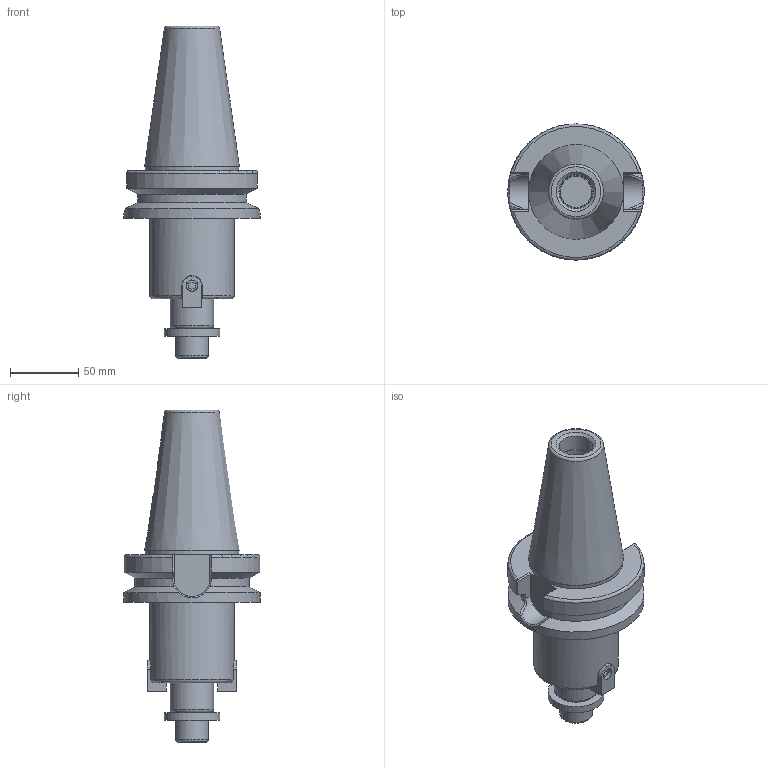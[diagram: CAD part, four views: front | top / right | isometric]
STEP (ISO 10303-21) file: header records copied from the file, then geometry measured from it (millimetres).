
FILE_DESCRIPTION(/* description */ (''),/* implementation_level */ '2;1');
FILE_NAME(/* name */ 'Z:\Проектный отдел\Алена\Оправка фрезерная (патрон) BT50-FMB32-100\BT50-FMB32-100.stp',/* time_stamp */ '2024-02-26T10:29:37+03:00',/* author */ ('User'),/* organization */ (''),/* preprocessor_version */ 'ST-DEVELOPER v18',/* originating_system */ 'Autodesk Inventor 2020',/* authorisation */ '');
FILE_SCHEMA (('AUTOMOTIVE_DESIGN { 1 0 10303 214 3 1 1 }'));
Length unit declared in the file: millimetre
Products named in the file (4): BT50-FMB32-100; Деталь1; шайба; BS 4168 - M16 x 40(5)
Assembly tree (3 placements, depth 2):
  BT50-FMB32-100
    Деталь1
    шайба
    BS 4168 - M16 x 40(5)
Bounding box: 100 x 100 x 243.5 mm (x, y, z)
Volume: 639263.2 mm3; surface area: 82793 mm2
Topology: 3 solids, 3 shells, 140 faces, 383 edges, 264 vertices
Faces by surface type: plane 73, cylinder 27, bspline 22, cone 10, torus 8
Full cylindrical faces by diameter (mm): 8.1 x2, 8.5 x2, 14.376 x1, 16 x1, 16.5 x1, 17.8 x1, 23 x1, 24 x2, 25 x1, 32 x1, 41 x1, 62 x1, 68.9 x1, 100 x1
Entity records: 5547 total; most frequent: CARTESIAN_POINT 1932, ORIENTED_EDGE 762, DIRECTION 639, EDGE_CURVE 381, VERTEX_POINT 264, AXIS2_PLACEMENT_3D 236, LINE 167, VECTOR 167
